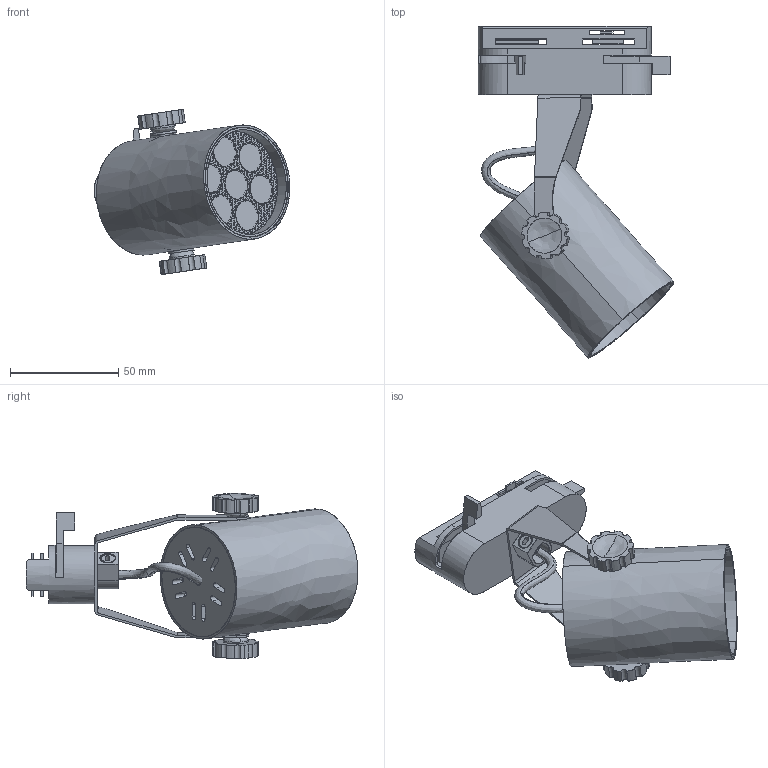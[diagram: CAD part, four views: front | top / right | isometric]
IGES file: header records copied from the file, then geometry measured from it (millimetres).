
Start section: SolidWorks IGES file using analytic representation for surfaces
Global section: file name: F:\GABRYSIA\MODELE 3D\PROFILE-STORE-PRO-LED-8317-8315-WWW\PROFILE-STORE-PRO-LED-8317-8315-WWW\PROFILE-STORE-PRO-LED-8317-8315.IGS; native system: SolidWorks 2017; preprocessor: SolidWorks 2017; author: Togambi; date: 200916.112807; units: millimetre
Bounding box: 90.34 x 153.2 x 76.32 mm (x, y, z)
Surface area: 73379.2 mm2 (no closed solid volume)
Topology: 0 solids, 0 shells, 2432 faces, 14761 edges, 14754 vertices
Faces by surface type: bspline 2191, revolution 241
